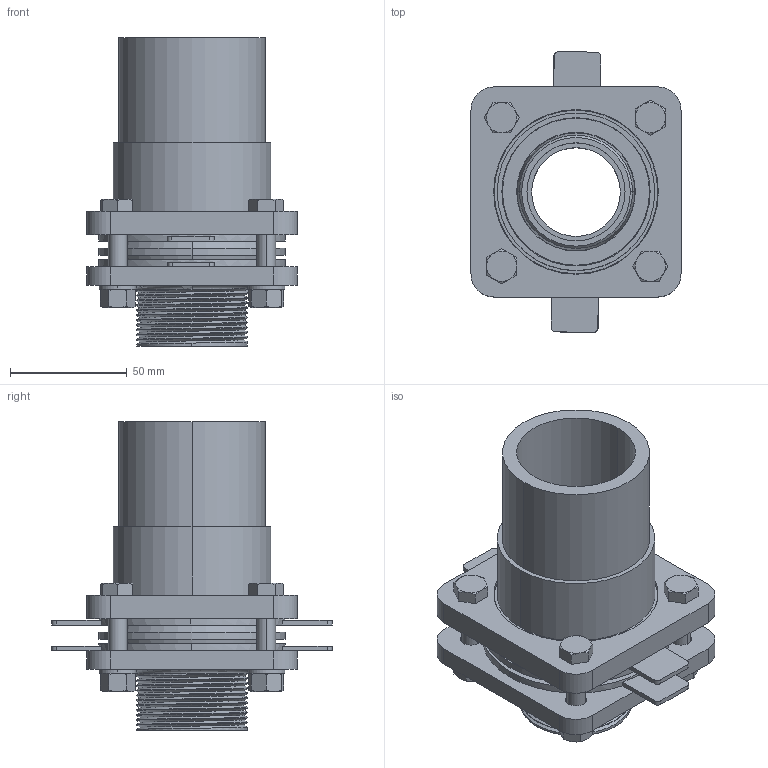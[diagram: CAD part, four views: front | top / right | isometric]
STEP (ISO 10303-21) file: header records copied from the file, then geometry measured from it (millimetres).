
FILE_DESCRIPTION (( 'STEP AP203' ), '1' );
FILE_NAME ('KP_C16-63_54M.step', '2011-08-08T12:01:18', ( '' ), ( '' ), 'SwSTEP 2.0', 'SolidWorks 2011', '' );
FILE_SCHEMA (( 'CONFIG_CONTROL_DESIGN' ));
Length unit declared in the file: millimetre
Products named in the file (1): KP_C16-63_54M
Bounding box: 90 x 120.17 x 132 mm (x, y, z)
Volume: 289508.2 mm3; surface area: 112470.6 mm2
Topology: 1 solids, 1 shells, 372 faces, 858 edges, 533 vertices
Faces by surface type: plane 125, cone 124, cylinder 106, torus 14, bspline 3
Entity records: 16617 total; most frequent: CARTESIAN_POINT 8190, DIRECTION 1753, ORIENTED_EDGE 1716, EDGE_CURVE 858, AXIS2_PLACEMENT_3D 723, VERTEX_POINT 533, EDGE_LOOP 427, ADVANCED_FACE 372
